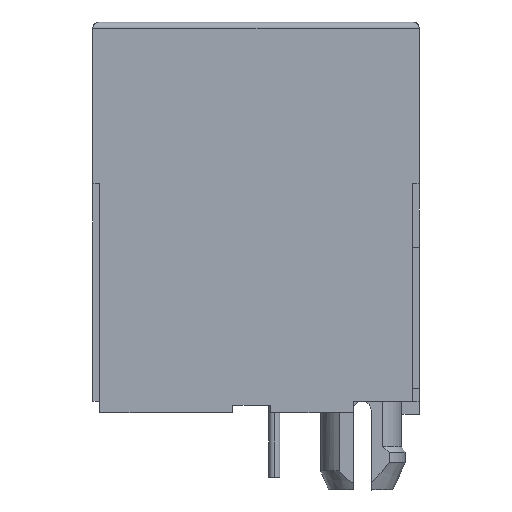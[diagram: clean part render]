
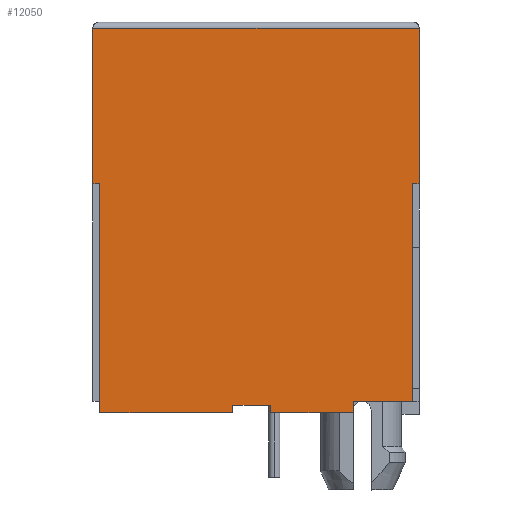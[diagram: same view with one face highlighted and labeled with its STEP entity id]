
A CAD part, left-side view. The second image highlights one B-rep face of the part: STEP entity #12050.
In plain terms, the highlighted planar face has unit normal (-1, 0, 0).
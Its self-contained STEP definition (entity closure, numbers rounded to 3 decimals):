
#709=DIRECTION('',(0.,0.,-1.));
#710=VECTOR('',#709,6.15);
#711=CARTESIAN_POINT('',(-7.9,0.,-0.25));
#712=LINE('',#711,#710);
#713=DIRECTION('',(0.,1.,0.));
#714=VECTOR('',#713,2.325);
#715=CARTESIAN_POINT('',(-7.9,0.275,-15.));
#716=LINE('',#715,#714);
#717=DIRECTION('',(0.,1.,0.));
#718=VECTOR('',#717,1.5);
#719=CARTESIAN_POINT('',(-7.9,5.87,-15.15));
#720=LINE('',#719,#718);
#721=DIRECTION('',(0.,0.,1.));
#722=VECTOR('',#721,0.3);
#723=CARTESIAN_POINT('',(-7.9,7.37,-15.45));
#724=LINE('',#723,#722);
#741=DIRECTION('',(0.,-1.,0.));
#742=VECTOR('',#741,5.255);
#743=CARTESIAN_POINT('',(-7.9,12.625,-15.45));
#744=LINE('',#743,#742);
#749=DIRECTION('',(0.,0.,-1.));
#750=VECTOR('',#749,9.05);
#751=CARTESIAN_POINT('',(-7.9,12.625,-6.4));
#752=LINE('',#751,#750);
#1145=DIRECTION('',(0.,0.,-1.));
#1146=VECTOR('',#1145,6.15);
#1147=CARTESIAN_POINT('',(-7.9,12.9,-0.25));
#1148=LINE('',#1147,#1146);
#1165=DIRECTION('',(0.,-1.,0.));
#1166=VECTOR('',#1165,0.275);
#1167=CARTESIAN_POINT('',(-7.9,12.9,-6.4));
#1168=LINE('',#1167,#1166);
#2675=DIRECTION('',(0.,1.,0.));
#2676=VECTOR('',#2675,12.9);
#2677=CARTESIAN_POINT('',(-7.9,0.,-0.25));
#2678=LINE('',#2677,#2676);
#2687=DIRECTION('',(0.,-1.,0.));
#2688=VECTOR('',#2687,0.275);
#2689=CARTESIAN_POINT('',(-7.9,0.275,-6.4));
#2690=LINE('',#2689,#2688);
#2707=DIRECTION('',(0.,0.,1.));
#2708=VECTOR('',#2707,8.6);
#2709=CARTESIAN_POINT('',(-7.9,0.275,-15.));
#2710=LINE('',#2709,#2708);
#6983=DIRECTION('',(0.,0.,1.));
#6984=VECTOR('',#6983,0.45);
#6985=CARTESIAN_POINT('',(-7.9,2.6,-15.45));
#6986=LINE('',#6985,#6984);
#7016=DIRECTION('',(0.,-1.,0.));
#7017=VECTOR('',#7016,3.27);
#7018=CARTESIAN_POINT('',(-7.9,5.87,-15.45));
#7019=LINE('',#7018,#7017);
#7033=DIRECTION('',(0.,0.,-1.));
#7034=VECTOR('',#7033,0.3);
#7035=CARTESIAN_POINT('',(-7.9,5.87,-15.15));
#7036=LINE('',#7035,#7034);
#8790=CARTESIAN_POINT('',(-7.9,0.,-6.4));
#8791=VERTEX_POINT('',#8790);
#8792=CARTESIAN_POINT('',(-7.9,0.,-0.25));
#8793=VERTEX_POINT('',#8792);
#8916=CARTESIAN_POINT('',(-7.9,2.6,-15.));
#8917=VERTEX_POINT('',#8916);
#8918=CARTESIAN_POINT('',(-7.9,0.275,-15.));
#8919=VERTEX_POINT('',#8918);
#9084=CARTESIAN_POINT('',(-7.9,5.87,-15.15));
#9085=CARTESIAN_POINT('',(-7.9,7.37,-15.15));
#9086=VERTEX_POINT('',#9084);
#9087=VERTEX_POINT('',#9085);
#9088=CARTESIAN_POINT('',(-7.9,7.37,-15.45));
#9089=VERTEX_POINT('',#9088);
#9090=CARTESIAN_POINT('',(-7.9,12.625,-15.45));
#9091=VERTEX_POINT('',#9090);
#9092=CARTESIAN_POINT('',(-7.9,12.625,-6.4));
#9093=VERTEX_POINT('',#9092);
#9094=CARTESIAN_POINT('',(-7.9,12.9,-6.4));
#9095=VERTEX_POINT('',#9094);
#9096=CARTESIAN_POINT('',(-7.9,12.9,-0.25));
#9097=VERTEX_POINT('',#9096);
#9098=CARTESIAN_POINT('',(-7.9,0.275,-6.4));
#9099=VERTEX_POINT('',#9098);
#9100=CARTESIAN_POINT('',(-7.9,2.6,-15.45));
#9101=VERTEX_POINT('',#9100);
#9102=CARTESIAN_POINT('',(-7.9,5.87,-15.45));
#9103=VERTEX_POINT('',#9102);
#12018=CARTESIAN_POINT('',(-7.9,6.45,-7.85));
#12019=DIRECTION('',(1.,0.,0.));
#12020=DIRECTION('',(0.,0.,1.));
#12021=AXIS2_PLACEMENT_3D('',#12018,#12019,#12020);
#12022=PLANE('',#12021);
#12024=ORIENTED_EDGE('',*,*,#12023,.F.);
#12026=ORIENTED_EDGE('',*,*,#12025,.F.);
#12028=ORIENTED_EDGE('',*,*,#12027,.F.);
#12030=ORIENTED_EDGE('',*,*,#12029,.F.);
#12032=ORIENTED_EDGE('',*,*,#12031,.F.);
#12034=ORIENTED_EDGE('',*,*,#12033,.F.);
#12035=ORIENTED_EDGE('',*,*,#11591,.T.);
#12037=ORIENTED_EDGE('',*,*,#12036,.F.);
#12039=ORIENTED_EDGE('',*,*,#12038,.F.);
#12040=ORIENTED_EDGE('',*,*,#11786,.T.);
#12042=ORIENTED_EDGE('',*,*,#12041,.F.);
#12044=ORIENTED_EDGE('',*,*,#12043,.F.);
#12046=ORIENTED_EDGE('',*,*,#12045,.F.);
#12047=ORIENTED_EDGE('',*,*,#12008,.T.);
#12048=EDGE_LOOP('',(#12024,#12026,#12028,#12030,#12032,#12034,#12035,#12037,
#12039,#12040,#12042,#12044,#12046,#12047));
#12049=FACE_OUTER_BOUND('',#12048,.F.);
#12050=ADVANCED_FACE('',(#12049),#12022,.F.);
#11591=EDGE_CURVE('',#8793,#8791,#712,.T.);
#11786=EDGE_CURVE('',#8919,#8917,#716,.T.);
#12008=EDGE_CURVE('',#9086,#9087,#720,.T.);
#12023=EDGE_CURVE('',#9089,#9087,#724,.T.);
#12025=EDGE_CURVE('',#9091,#9089,#744,.T.);
#12027=EDGE_CURVE('',#9093,#9091,#752,.T.);
#12029=EDGE_CURVE('',#9095,#9093,#1168,.T.);
#12031=EDGE_CURVE('',#9097,#9095,#1148,.T.);
#12033=EDGE_CURVE('',#8793,#9097,#2678,.T.);
#12036=EDGE_CURVE('',#9099,#8791,#2690,.T.);
#12038=EDGE_CURVE('',#8919,#9099,#2710,.T.);
#12041=EDGE_CURVE('',#9101,#8917,#6986,.T.);
#12043=EDGE_CURVE('',#9103,#9101,#7019,.T.);
#12045=EDGE_CURVE('',#9086,#9103,#7036,.T.);
